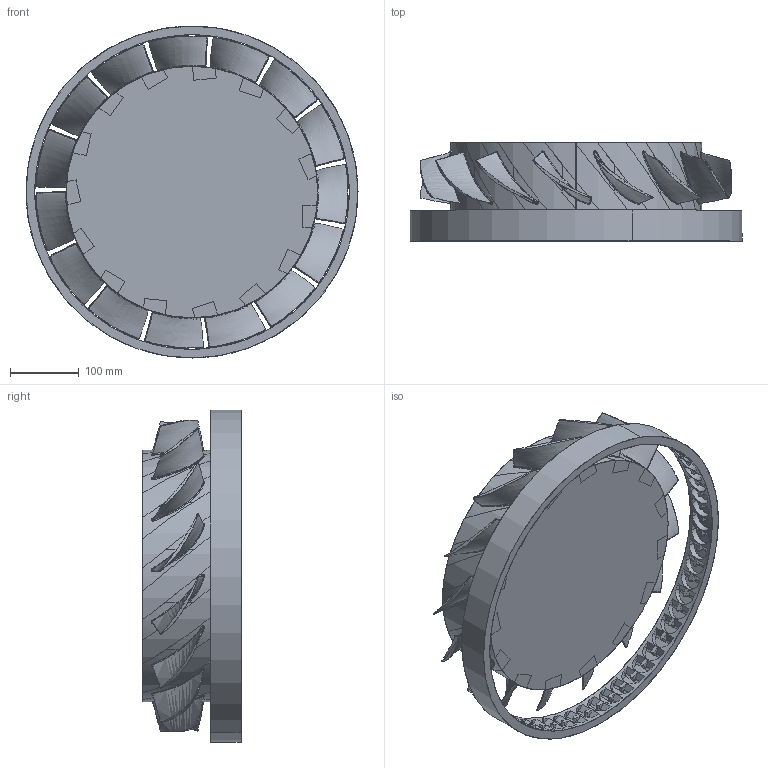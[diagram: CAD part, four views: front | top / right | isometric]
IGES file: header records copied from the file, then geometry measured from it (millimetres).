
Start section: SolidWorks IGES file using analytic representation for surfaces
Global section: file name: H:\Data to be sent to NASA\rotor and U groove.IGS; native system: SolidWorks 2017; preprocessor: SolidWorks 2017; author: Subhra Shankha Koley; date: 210421.160230; units: inch
Bounding box: 482.6 x 142.87 x 482.6 mm (x, y, z)
Surface area: 825318.2 mm2 (no closed solid volume)
Topology: 0 solids, 0 shells, 891 faces, 18739 edges, 18734 vertices
Faces by surface type: bspline 524, revolution 367
